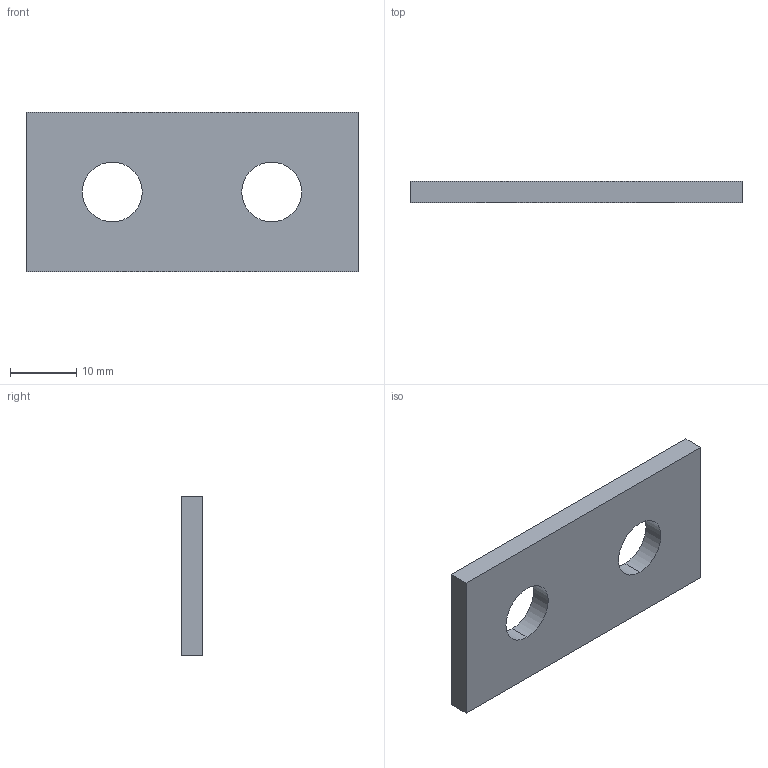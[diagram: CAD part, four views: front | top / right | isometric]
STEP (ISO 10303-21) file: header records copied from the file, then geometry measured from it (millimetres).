
FILE_DESCRIPTION (( 'STEP AP203' ), '1' );
FILE_NAME ('500-02467 Shim for RSP1-50-to-250kg.STEP', '2020-09-22T16:33:56', ( '' ), ( '' ), 'SwSTEP 2.0', 'SolidWorks 2016', '' );
FILE_SCHEMA (( 'CONFIG_CONTROL_DESIGN' ));
Length unit declared in the file: millimetre
Products named in the file (1): 500-02467 Shim for RSP1-50-to-250kg
Bounding box: 50 x 3.17 x 24 mm (x, y, z)
Volume: 3406 mm3; surface area: 2795 mm2
Topology: 1 solids, 1 shells, 10 faces, 24 edges, 16 vertices
Faces by surface type: plane 6, cylinder 4
Entity records: 381 total; most frequent: DIRECTION 54, CARTESIAN_POINT 51, ORIENTED_EDGE 48, EDGE_CURVE 24, AXIS2_PLACEMENT_3D 19, VECTOR 16, VERTEX_POINT 16, LINE 16
